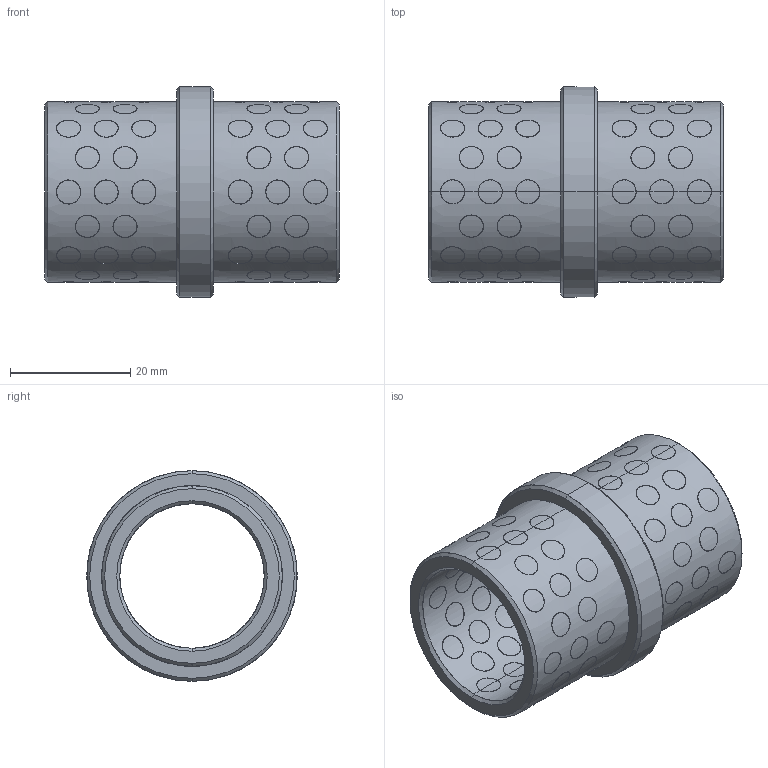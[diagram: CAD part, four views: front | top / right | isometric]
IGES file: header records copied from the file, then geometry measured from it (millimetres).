
Start section: START RECORD GO HERE.
Global section: file name: G3132427.igs; native system: DASSAULT SYSTEMES CATIA V5 R20 - www.3ds.com; preprocessor: CATIA Version 5 Release 20 ; author: r.borello; organization: CFTORINO; date: 20190624.132827; units: millimetre
Bounding box: 49 x 35 x 35 mm (x, y, z)
Surface area: 15239.2 mm2 (no closed solid volume)
Topology: 0 solids, 0 shells, 528 faces, 2304 edges, 2304 vertices
Faces by surface type: revolution 524, plane 4
